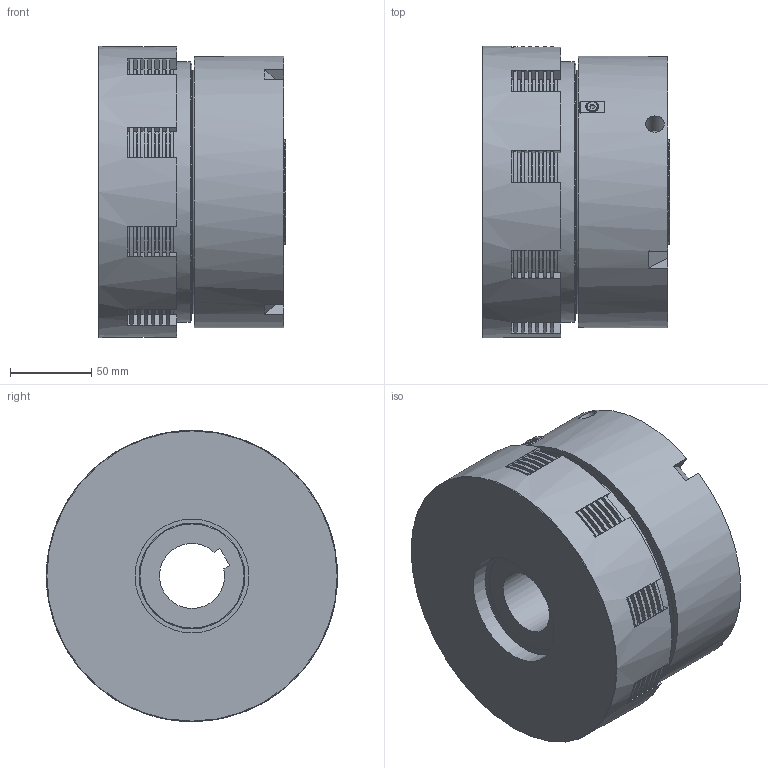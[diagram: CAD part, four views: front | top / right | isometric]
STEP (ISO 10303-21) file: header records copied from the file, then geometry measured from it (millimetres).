
FILE_DESCRIPTION(/* description */ (''),/* implementation_level */ '2;1');
FILE_NAME(/* name */ 'X:\INVENTOR\DISEGNI\03_Friz_Oleod_Pneum_Cil_Stat\03_08 LP\03_08_008_01 LP008\03_08_008_01 LP08_F40@STEP.stp',/* time_stamp */ '2016-10-25T11:43:32+02:00',/* author */ ('stefano'),/* organization */ (''),/* preprocessor_version */ 'ST-DEVELOPER v16.1',/* originating_system */ 'Autodesk Inventor 2016',/* authorisation */ '');
FILE_SCHEMA (('CONFIG_CONTROL_DESIGN'));
Length unit declared in the file: millimetre
Products named in the file (1): 03_08_008_01 LP08_Substitute_1 -F40
Bounding box: 115 x 179 x 179 mm (x, y, z)
Volume: 1887444.7 mm3; surface area: 681681 mm2
Topology: 13 solids, 13 shells, 924 faces, 3185 edges, 2321 vertices
Faces by surface type: plane 501, cylinder 278, torus 78, sphere 35, cone 32
Full cylindrical faces by diameter (mm): 3 x2, 3.5 x6, 4 x36, 6.5 x1, 6.647 x6, 7 x7, 11.445 x1, 16 x6, 16.5 x6, 62 x2, 65 x5, 70 x1, 76.2 x2, 88.8 x2, 91 x1, 96 x1, 100 x3, 102.5 x6, 103.5 x1, 110 x1, 120 x1, 125 x2, 129.6 x2, 130 x1, 132 x1, 140.4 x2, 142 x1, 150 x1, 155 x2, 160 x1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
Entity records: 38198 total; most frequent: CARTESIAN_POINT 11198, ORIENTED_EDGE 5710, DIRECTION 4850, EDGE_CURVE 2853, VERTEX_POINT 2170, AXIS2_PLACEMENT_3D 1715, LINE 1420, VECTOR 1420
